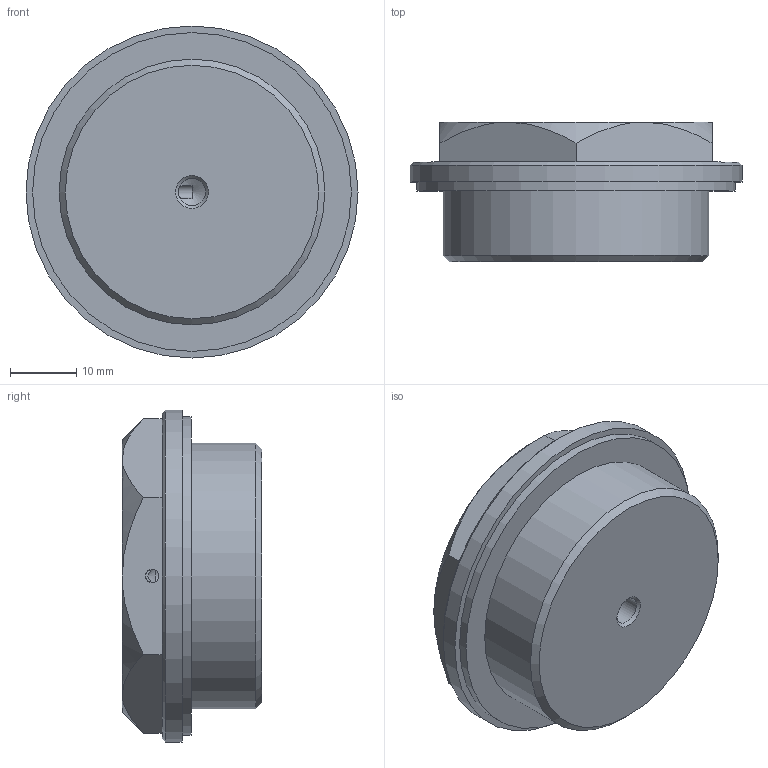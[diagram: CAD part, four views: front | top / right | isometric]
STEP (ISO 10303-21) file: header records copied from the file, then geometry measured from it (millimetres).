
FILE_DESCRIPTION( ( 'STEP AP203' ), '1' );
FILE_NAME( 'C:/Temp/Ganter_Step_05_03_2020/data/3_5/gn742/gn742_2/Threaded plug GN 742-50-M40x1,5-OSS-2.stp', '2020-03-12T13:39:49', ( 'License CC BY-ND 4.0' ), ( 'CADENAS' ), ' ', 'PARTsolutions', ' ' );
FILE_SCHEMA( ( 'CONFIG_CONTROL_DESIGN' ) );
Length unit declared in the file: millimetre
Products named in the file (1): _Threaded plug GN 742-50-M40x1,5-OSS-2
Bounding box: 50 x 21 x 50 mm (x, y, z)
Volume: 29967.3 mm3; surface area: 6901.3 mm2
Topology: 1 solids, 1 shells, 27 faces, 59 edges, 36 vertices
Faces by surface type: plane 12, cone 10, cylinder 5
Full cylindrical faces by diameter (mm): 2 x1, 4.134 x1, 40 x1, 48 x1, 50 x1
Entity records: 806 total; most frequent: CARTESIAN_POINT 229, DIRECTION 108, ORIENTED_EDGE 96, EDGE_CURVE 48, AXIS2_PLACEMENT_3D 47, EDGE_LOOP 40, VERTEX_POINT 34, FACE_OUTER_BOUND 32
